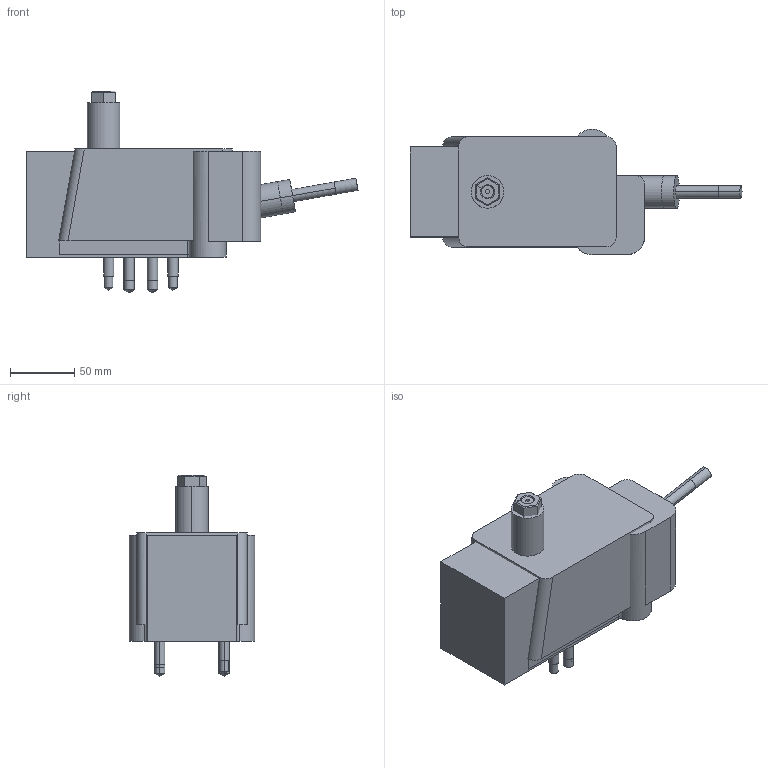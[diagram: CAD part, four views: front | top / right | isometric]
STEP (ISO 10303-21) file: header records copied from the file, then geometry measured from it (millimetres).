
FILE_DESCRIPTION (( 'STEP AP214' ), '1' );
FILE_NAME ('EZ-10-SG-L.STEP', '2022-06-24T13:48:34', ( '' ), ( '' ), 'SwSTEP 2.0', 'SolidWorks 2020', '' );
FILE_SCHEMA (( 'AUTOMOTIVE_DESIGN' ));
Length unit declared in the file: inch
Products named in the file (1): EZ-10-SG-L
Bounding box: 258.45 x 97.75 x 156.95 mm (x, y, z)
Volume: 2603419 mm3; surface area: 237712.9 mm2
Topology: 19 solids, 19 shells, 419 faces, 964 edges, 600 vertices
Faces by surface type: plane 167, cylinder 143, cone 90, torus 12, sphere 5, bspline 2
Entity records: 18305 total; most frequent: CARTESIAN_POINT 8548, DIRECTION 2070, ORIENTED_EDGE 1898, EDGE_CURVE 949, AXIS2_PLACEMENT_3D 791, VERTEX_POINT 598, LINE 488, VECTOR 488
